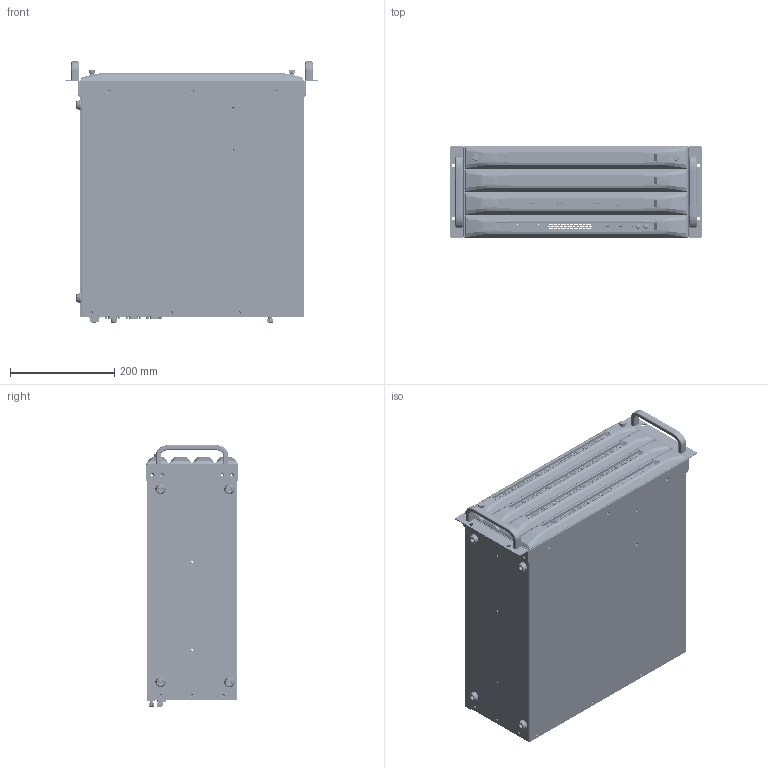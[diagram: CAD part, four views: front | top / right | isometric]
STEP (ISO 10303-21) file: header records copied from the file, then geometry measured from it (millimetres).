
FILE_DESCRIPTION((''),'2;1');
FILE_NAME('000_IPC-T610-HK_20240522_ASM','2024-05-22T14:06:50',('Main'),(''),'CREO PARAMETRIC BY PTC INC, 2021404','CREO PARAMETRIC BY PTC INC, 2021404','');
FILE_SCHEMA(('CONFIG_CONTROL_DESIGN','SHAPE_APPEARANCE_LAYERS_GROUPS'));
Products named in the file (169): DIKE_OMT610_49_1; DIKE_OMT610_49_2; DIKE_OMT610_49_3; DIKE_OMT610_49_4; DIKE_OMT610_49_5; DIKE_OMT610_49_6; DIKE_OMT610_49_7; DIKE_OMT610_49_8; DIKE_OMT610_49_9; DIKE_OMT610_49_10; DIKE_OMT610_49_11; DIKE_OMT610_49_12; DIKE_OMT610_49_13; DIKE_OMT610_49_14; DIKE_OMT610_49_15; DIKE_OMT610_49_16; DIKE_OMT610_49_17; DIKE_OMT610_49_18; DIKE_OMT610_49_19; DIKE_OMT610_49_20; DIKE_OMT610_49_21; DIKE_OMT610_49_22; DIKE_OMT610_49_ASM; LMZ_M3X7_54_3; DIKE_T610_ASM_12_ASM; ZHUBAN_ZHIJIA_T610_10_1; ZHUBAN_ZHIJIA_T610_10_2; ZHUBAN_ZHIJIA_T610_10_3; ZHUBAN_ZHIJIA_T610_10_4; ZHUBAN_ZHIJIA_T610_10_5; ZHUBAN_ZHIJIA_T610_10_6; ZHUBAN_ZHIJIA_T610_10_7; ZHUBAN_ZHIJIA_T610_10_8; ZHUBAN_ZHIJIA_T610_10_9; ZHUBAN_ZHIJIA_T610_10_10; ZHUBAN_ZHIJIA_T610_10_11; ZHUBAN_ZHIJIA_T610_10_12; ZHUBAN_ZHIJIA_T610_10_13; ZHUBAN_ZHIJIA_T610_10_ASM; GUDINGPIAN_T610_6_1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
Assembly tree (233 placements, depth 8):
  000_IPC-T610-HK_20240522_ASM
    000_IPC-T610-HK_ASM_234_ASM
      DIKE_OMT610_ASM_25_ASM
        DIKE_T610_ASM_12_ASM
          DIKE_OMT610_49_ASM
            DIKE_OMT610_49_1
            DIKE_OMT610_49_2
            DIKE_OMT610_49_3
            DIKE_OMT610_49_4
            DIKE_OMT610_49_5
            DIKE_OMT610_49_6
            DIKE_OMT610_49_7
            DIKE_OMT610_49_8
            DIKE_OMT610_49_9
            DIKE_OMT610_49_10
            DIKE_OMT610_49_11
            DIKE_OMT610_49_12
            DIKE_OMT610_49_13
            DIKE_OMT610_49_14
            DIKE_OMT610_49_15
            DIKE_OMT610_49_16
            DIKE_OMT610_49_17
            DIKE_OMT610_49_18
            DIKE_OMT610_49_19
            DIKE_OMT610_49_20
            DIKE_OMT610_49_21
            DIKE_OMT610_49_22
          LMZ_M3X7_54_3  x8
        ZHUBAN_ZHIJIA_T610_10_ASM
          ZHUBAN_ZHIJIA_T610_10_1
          ZHUBAN_ZHIJIA_T610_10_2
          ZHUBAN_ZHIJIA_T610_10_3
          ZHUBAN_ZHIJIA_T610_10_4
          ZHUBAN_ZHIJIA_T610_10_5
          ZHUBAN_ZHIJIA_T610_10_6
          ZHUBAN_ZHIJIA_T610_10_7
          ZHUBAN_ZHIJIA_T610_10_8
          ZHUBAN_ZHIJIA_T610_10_9
          ZHUBAN_ZHIJIA_T610_10_10
          ZHUBAN_ZHIJIA_T610_10_11
          ZHUBAN_ZHIJIA_T610_10_12
          ZHUBAN_ZHIJIA_T610_10_13
        GUDINGPIAN_T610_6_ASM  x2
          GUDINGPIAN_T610_6_1
          GUDINGPIAN_T610_6_2
          GUDINGPIAN_T610_6_3
        LIANJIELIAN_T610_11
        JIAODIAN__2  x4
      SHANGGAI_T610_ASM_11_ASM
        SHANGGAI_T610_9
        M3_SONGBUTUO_LUOSI_1_ASM  x2
          M3_SONGBUTUO_LUOSI_1_1
          M3_SONGBUTUO_LUOSI_1_2
      HOUMIANBAN_T610_ASM_37_ASM
        HOUBAN_T610_33_ASM
          HOUBAN_T610_33_1
          HOUBAN_T610_33_2
          HOUBAN_T610_33_3
          HOUBAN_T610_33_4
          HOUBAN_T610_33_5
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Bounding box: 482.3 x 176.9 x 501.74 mm (x, y, z)
Volume: 2190444.7 mm3; surface area: 2924816.5 mm2
Topology: 210 solids, 214 shells, 17652 faces, 51433 edges, 34266 vertices
Faces by surface type: plane 10819, cylinder 5393, bspline 534, cone 392, torus 276, extrusion 206, sphere 28, revolution 4
Entity records: 461961 total; most frequent: CARTESIAN_POINT 111711, ORIENTED_EDGE 69036, DIRECTION 65546, EDGE_CURVE 34518, VECTOR 23226, LINE 23110, VERTEX_POINT 22932, AXIS2_PLACEMENT_3D 21159
